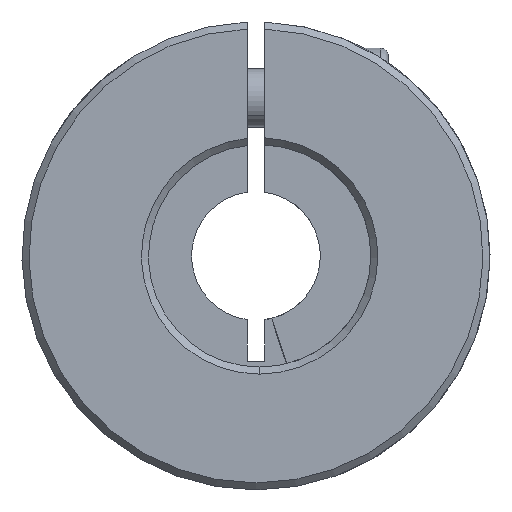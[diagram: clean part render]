
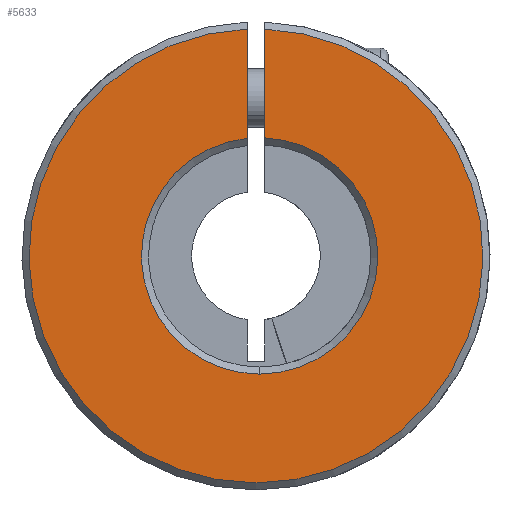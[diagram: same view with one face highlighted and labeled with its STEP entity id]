
A CAD part, front view. The second image highlights one B-rep face of the part: STEP entity #5633.
In plain terms, the highlighted planar face has unit normal (0, -1, 0).
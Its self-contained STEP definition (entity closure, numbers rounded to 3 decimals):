
#141 = DIRECTION ( 'NONE',  ( 0., 0., 1. ) ) ;
#162 = DIRECTION ( 'NONE',  ( 0., -1., 0. ) ) ;
#204 = EDGE_CURVE ( 'NONE', #4125, #5857, #5195, .T. ) ;
#310 = EDGE_CURVE ( 'NONE', #4079, #2227, #2087, .T. ) ;
#484 = CIRCLE ( 'NONE', #3758, 10.1 ) ;
#684 = DIRECTION ( 'NONE',  ( 0., 1., 0. ) ) ;
#754 = CARTESIAN_POINT ( 'NONE',  ( 0.75, -30., 10.091 ) ) ;
#848 = EDGE_CURVE ( 'NONE', #1743, #4079, #484, .T. ) ;
#862 = VECTOR ( 'NONE', #876, 1000. ) ;
#876 = DIRECTION ( 'NONE',  ( 0., 0., -1. ) ) ;
#879 = CARTESIAN_POINT ( 'NONE',  ( 0.314, -30., 0. ) ) ;
#1079 = PLANE ( 'NONE',  #2987 ) ;
#1119 = ORIENTED_EDGE ( 'NONE', *, *, #848, .T. ) ;
#1216 = AXIS2_PLACEMENT_3D ( 'NONE', #5289, #162, #1581 ) ;
#1541 = ORIENTED_EDGE ( 'NONE', *, *, #2629, .T. ) ;
#1581 = DIRECTION ( 'NONE',  ( 0., 0., 1. ) ) ;
#1589 = DIRECTION ( 'NONE',  ( 0., 1., 0. ) ) ;
#1743 = VERTEX_POINT ( 'NONE', #754 ) ;
#1807 = AXIS2_PLACEMENT_3D ( 'NONE', #1959, #684, #141 ) ;
#1959 = CARTESIAN_POINT ( 'NONE',  ( 0.314, -30., 0. ) ) ;
#2059 = ORIENTED_EDGE ( 'NONE', *, *, #5411, .T. ) ;
#2087 = CIRCLE ( 'NONE', #1807, 10.1 ) ;
#2227 = VERTEX_POINT ( 'NONE', #4655 ) ;
#2493 = CARTESIAN_POINT ( 'NONE',  ( 0., -30., 0. ) ) ;
#2629 = EDGE_CURVE ( 'NONE', #2227, #4125, #3750, .T. ) ;
#2666 = CARTESIAN_POINT ( 'NONE',  ( 0.75, -30., -9. ) ) ;
#2668 = DIRECTION ( 'NONE',  ( 0., 0., 1. ) ) ;
#2987 = AXIS2_PLACEMENT_3D ( 'NONE', #2493, #1589, #4367 ) ;
#3354 = ORIENTED_EDGE ( 'NONE', *, *, #204, .T. ) ;
#3593 = LINE ( 'NONE', #2666, #862 ) ;
#3750 = LINE ( 'NONE', #5140, #5867 ) ;
#3758 = AXIS2_PLACEMENT_3D ( 'NONE', #879, #5080, #2668 ) ;
#3879 = ORIENTED_EDGE ( 'NONE', *, *, #310, .T. ) ;
#3901 = CARTESIAN_POINT ( 'NONE',  ( -0.75, -30., 19.385 ) ) ;
#4079 = VERTEX_POINT ( 'NONE', #5241 ) ;
#4125 = VERTEX_POINT ( 'NONE', #3901 ) ;
#4367 = DIRECTION ( 'NONE',  ( 0., 0., 1. ) ) ;
#4526 = EDGE_LOOP ( 'NONE', ( #2059, #1119, #3879, #1541, #3354 ) ) ;
#4655 = CARTESIAN_POINT ( 'NONE',  ( -0.75, -30., 10.044 ) ) ;
#5080 = DIRECTION ( 'NONE',  ( 0., 1., 0. ) ) ;
#5082 = DIRECTION ( 'NONE',  ( 0., 0., 1. ) ) ;
#5140 = CARTESIAN_POINT ( 'NONE',  ( -0.75, -30., -9. ) ) ;
#5152 = CARTESIAN_POINT ( 'NONE',  ( 0.75, -30., 19.385 ) ) ;
#5195 = CIRCLE ( 'NONE', #1216, 19.4 ) ;
#5241 = CARTESIAN_POINT ( 'NONE',  ( 0.314, -30., -10.1 ) ) ;
#5289 = CARTESIAN_POINT ( 'NONE',  ( 0., -30., 0. ) ) ;
#5325 = FACE_OUTER_BOUND ( 'NONE', #4526, .T. ) ;
#5411 = EDGE_CURVE ( 'NONE', #5857, #1743, #3593, .T. ) ;
#5633 = ADVANCED_FACE ( 'NONE', ( #5325 ), #1079, .F. ) ;
#5857 = VERTEX_POINT ( 'NONE', #5152 ) ;
#5867 = VECTOR ( 'NONE', #5082, 1000. ) ;
